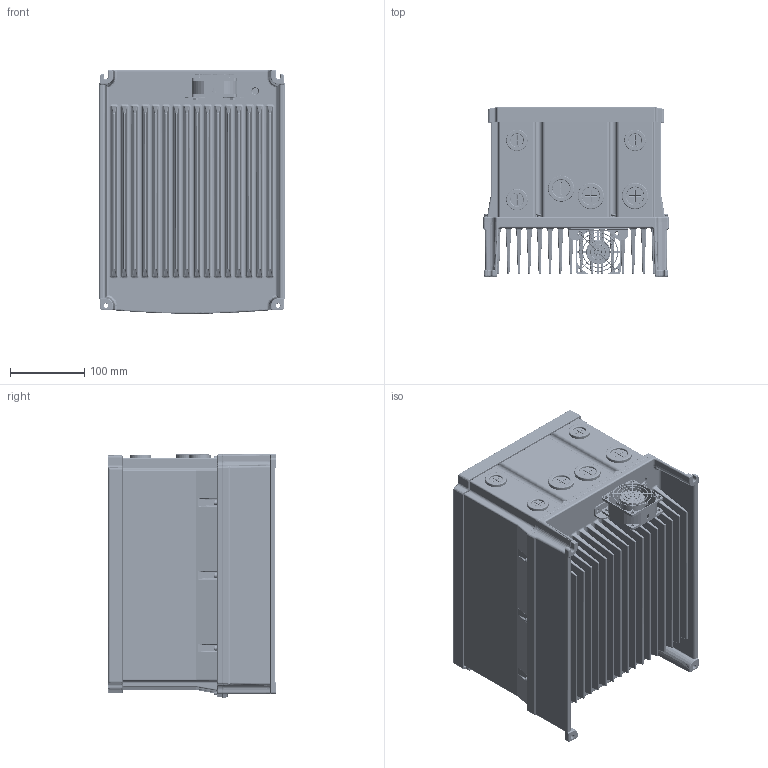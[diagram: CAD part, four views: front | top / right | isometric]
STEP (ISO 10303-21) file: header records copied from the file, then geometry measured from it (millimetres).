
FILE_DESCRIPTION (( 'STEP AP203' ), '1' );
FILE_NAME ('S100_0055-0075_IP66.STEP', '2020-03-30T13:49:01', ( '' ), ( '' ), 'SwSTEP 2.0', 'SolidWorks 2012', '' );
FILE_SCHEMA (( 'CONFIG_CONTROL_DESIGN' ));
Products named in the file (25): IP66_MIDDLE_CASE_V1_V2_19; MANIFOLD_SOLID_BREP_63706; FAN_GUIDE_60SQ_1_ASM; S100_0055-0075_IP66; s100_ip66_frame_c_asm_min; TOTAL_075_V2_ASSY_ASM_7_ASM; CONDUIT_PACKING-28_6_1; M4_L14_SCREW__INST_V2_1_ASM_1; CONDUIT_PACKING-22_3_1; MANIFOLD_SOLID_BREP_511355; IG7_IP66_KNOB_SCREW_V2_V2_2; MANIFOLD_SOLID_BREP_511088; IG7_IP66_037_SWITCH_CORE_V3_V2_; IG7-KEYPAD_SHEET-V3_V2_1_1; TOP_COVER_V2_V2_5; MANIFOLD_SOLID_BREP_62747; MANIFOLD_SOLID_BREP_61788; MANIFOLD_SOLID_BREP_61681; MANIFOLD_SOLID_BREP_61574; MANIFOLD_SOLID_BREP_61360; FAN_PACKING_IP66_V2_1; MANIFOLD_SOLID_BREP_61467; IP66_HEATSINK_V2_9; FAN_F6025X24B-AH_V1_1; S100_IP66_60X_FAN_BRK_V2_1
Assembly tree (42 placements, depth 5):
  S100_0055-0075_IP66
    s100_ip66_frame_c_asm_min
      TOTAL_075_V2_ASSY_ASM_7_ASM
        IP66_HEATSINK_V2_9
        S100_IP66_60X_FAN_BRK_V2_1
        FAN_F6025X24B-AH_V1_1
        FAN_PACKING_IP66_V2_1
        FAN_GUIDE_60SQ_1_ASM
          MANIFOLD_SOLID_BREP_61360
          MANIFOLD_SOLID_BREP_61467
          MANIFOLD_SOLID_BREP_61574
          MANIFOLD_SOLID_BREP_61681
          MANIFOLD_SOLID_BREP_61788
          MANIFOLD_SOLID_BREP_62747
          MANIFOLD_SOLID_BREP_63706
        IP66_MIDDLE_CASE_V1_V2_19
        IG7-KEYPAD_SHEET-V3_V2_1_1
        TOP_COVER_V2_V2_5
        IG7_IP66_037_SWITCH_CORE_V3_V2_
        IG7_IP66_KNOB_SCREW_V2_V2_2  x6
        M4_L14_SCREW__INST_V2_1_ASM_1  x10
          MANIFOLD_SOLID_BREP_511088
          MANIFOLD_SOLID_BREP_511355
        CONDUIT_PACKING-22_3_1  x3
        CONDUIT_PACKING-28_6_1  x3
Bounding box: 250 x 227.2 x 327.91 mm (x, y, z)
Volume: 922114.2 mm3; surface area: 1499792.7 mm2
Topology: 44 solids, 48 shells, 6519 faces, 17185 edges, 11014 vertices
Faces by surface type: plane 2623, cylinder 2161, bspline 1326, cone 408, torus 1
Entity records: 276018 total; most frequent: CARTESIAN_POINT 143876, ORIENTED_EDGE 31088, DIRECTION 20600, EDGE_CURVE 15667, VERTEX_POINT 10044, AXIS2_PLACEMENT_3D 7182, EDGE_LOOP 6343, LINE 6236
